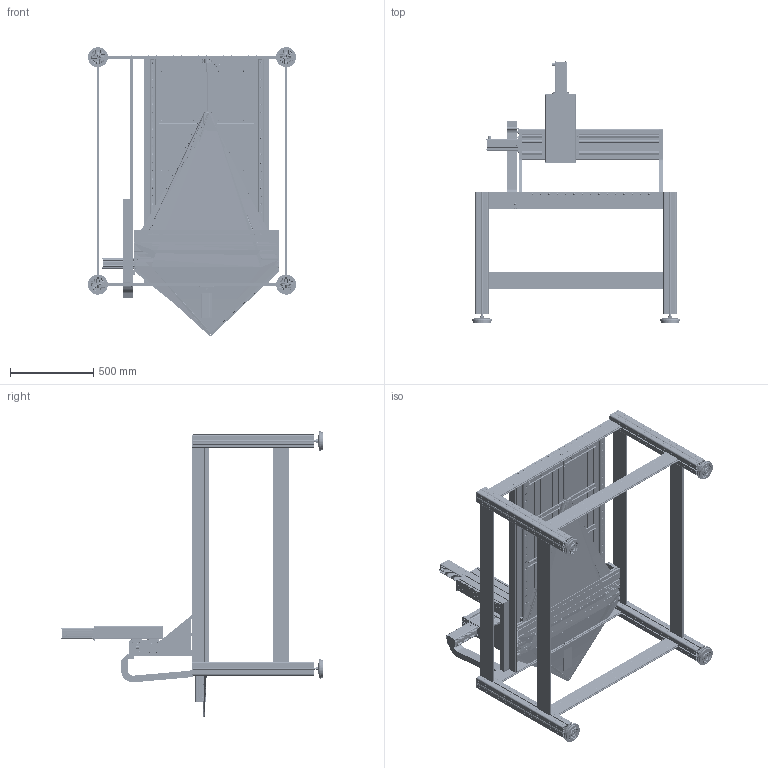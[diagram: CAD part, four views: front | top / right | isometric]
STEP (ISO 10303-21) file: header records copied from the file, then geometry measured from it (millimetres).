
FILE_DESCRIPTION (( 'STEP AP203' ), '1' );
FILE_NAME ('STEP_-_X-Y-Z Flachbetteinheit FB2 - ArtNr 246203 2054M - ArtNr 248500 0054 - ArtNr 230514 0400M.step', '2015-04-22T15:12:07', ( '' ), ( '' ), 'SwSTEP 2.0', 'SolidWorks 2014', '' );
FILE_SCHEMA (( 'CONFIG_CONTROL_DESIGN' ));
Products named in the file (6): Untergestell 750x1350; Untergestell Baugruppe_750x1350; STEP_-_X-Y-Z Flachbetteinheit FB2 - ArtNr 246203 2054M - ArtNr 248500 0054 - ArtNr 230514 0400M; X-Y-Achse f黵 Verfahrweg 530; TE0179 - F黨rungsschlitten_F乭rungsschlitten f乺 KG-Mutter Typ25; Z-Achse FB2 Hub 160mm
Assembly tree (6 placements, depth 3):
  STEP_-_X-Y-Z Flachbetteinheit FB2 - ArtNr 246203 2054M - ArtNr 248500 0054 - ArtNr 230514 0400M
    X-Y-Achse f黵 Verfahrweg 530
    TE0179 - F黨rungsschlitten_F乭rungsschlitten f乺 KG-Mutter Typ25  x2
    Z-Achse FB2 Hub 160mm
    Untergestell Baugruppe_750x1350
      Untergestell 750x1350
Bounding box: 1249.73 x 1570.1 x 1738.86 mm (x, y, z)
Volume: 37441888 mm3; surface area: 24336951.1 mm2
Topology: 491 solids, 492 shells, 17240 faces, 45123 edges, 29347 vertices
Faces by surface type: plane 9938, cylinder 5036, cone 1030, torus 675, bspline 421, sphere 140
Full cylindrical faces by diameter (mm): 1.5 x6, 2 x2, 2.33 x2, 2.4 x2, 2.5 x42, 3 x16, 3.2 x19, 4 x25, 4.2 x14, 4.5 x24, 4.6 x1, 4.8 x8, 5 x70, 5.2 x44, 5.5 x21, 6 x250, 6.1 x8, 6.35 x2, 6.4 x16, 6.5 x84, 6.6 x105, 7 x177, 7.2 x3, 7.5 x38, 8 x16, 8.5 x16, 9 x1, 9.2 x3, 9.8 x2, 10 x205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
Entity records: 555618 total; most frequent: CARTESIAN_POINT 160322, ORIENTED_EDGE 79212, DIRECTION 78600, EDGE_CURVE 39606, AXIS2_PLACEMENT_3D 27505, VERTEX_POINT 27433, LINE 23590, VECTOR 23590
